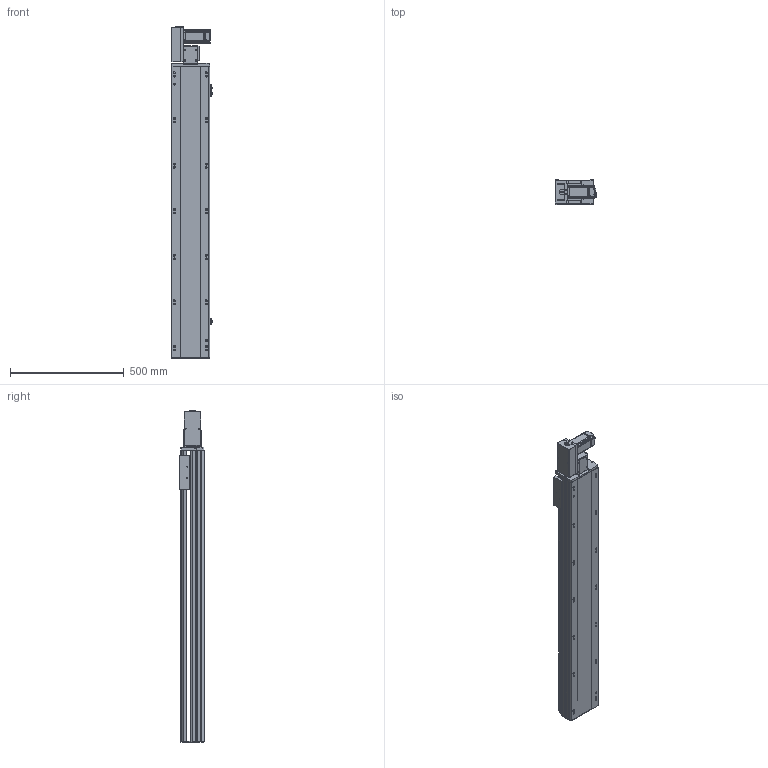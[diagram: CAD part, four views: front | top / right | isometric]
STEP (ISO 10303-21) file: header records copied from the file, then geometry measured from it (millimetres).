
FILE_DESCRIPTION (( 'STEP AP214' ), '1' );
FILE_NAME ('TPT17M-L40-1000-L-T40-C4.STEP', '2023-03-24T03:30:01', ( '' ), ( '' ), 'SwSTEP 2.0', 'SolidWorks 2020', '' );
FILE_SCHEMA (( 'AUTOMOTIVE_DESIGN' ));
Length unit declared in the file: millimetre
Products named in the file (11): 葩璃 侂狟400W^TPT17M-L40-L-T40-C4; 葩璃 TPT17-L-001 菁釱MZ-170-01^TPT17M-L40-L-T40-C4; 葩璃 TPT17-L-002 奻裔MZ-170-05^TPT17M-L40-L-T40-C4; 葩璃 TPT17-L-005 賑釱MZ-170-07^TPT17M-L40-L-T40-C4; TPT17M-L40-1000-L-T40-C4; 葩璃 TPT17-L-007 々湍釱MZ-169x88^TPT17M-L40-L-T40-C4_TPT17M; 葩璃 pm-t65-672^TPT17M-L40-L-T40-C4; hex nuts, style 1-grades ab gb_GB_FASTENER_NUT_SNAB1 M3-N; 葩璃 (2) TPT14-L-009 萇儂啣^TPT17M-L40-L-T40-C4_400W; hexagon socket head cap screws gb_GB_FASTENER_SCREWS_HSHCS M3X6-N; hexagon head bolts-full thread gb_GB_FASTENER_BOLT_STBAB A M5X16-N
Assembly tree (22 placements, depth 2):
  TPT17M-L40-1000-L-T40-C4
    葩璃 TPT17-L-001 菁釱MZ-170-01^TPT17M-L40-L-T40-C4
    葩璃 TPT17-L-002 奻裔MZ-170-05^TPT17M-L40-L-T40-C4
    葩璃 TPT17-L-005 賑釱MZ-170-07^TPT17M-L40-L-T40-C4
    葩璃 TPT17-L-007 々湍釱MZ-169x88^TPT17M-L40-L-T40-C4_TPT17M
    葩璃 (2) TPT14-L-009 萇儂啣^TPT17M-L40-L-T40-C4_400W
    葩璃 pm-t65-672^TPT17M-L40-L-T40-C4  x3
    葩璃 侂狟400W^TPT17M-L40-L-T40-C4
    hexagon socket head cap screws gb_GB_FASTENER_SCREWS_HSHCS M3X6-N  x6
    hex nuts, style 1-grades ab gb_GB_FASTENER_NUT_SNAB1 M3-N  x6
    hexagon head bolts-full thread gb_GB_FASTENER_BOLT_STBAB A M5X16-N
Bounding box: 183.7 x 108 x 1456.65 mm (x, y, z)
Volume: 14238136.2 mm3; surface area: 1496038.5 mm2
Topology: 30 solids, 30 shells, 1721 faces, 4418 edges, 2798 vertices
Faces by surface type: plane 921, cylinder 548, cone 214, bspline 26, torus 12
Entity records: 41561 total; most frequent: CARTESIAN_POINT 7964, DIRECTION 6805, ORIENTED_EDGE 6432, EDGE_CURVE 3216, AXIS2_PLACEMENT_3D 2402, VERTEX_POINT 2089, VECTOR 2001, LINE 2001
